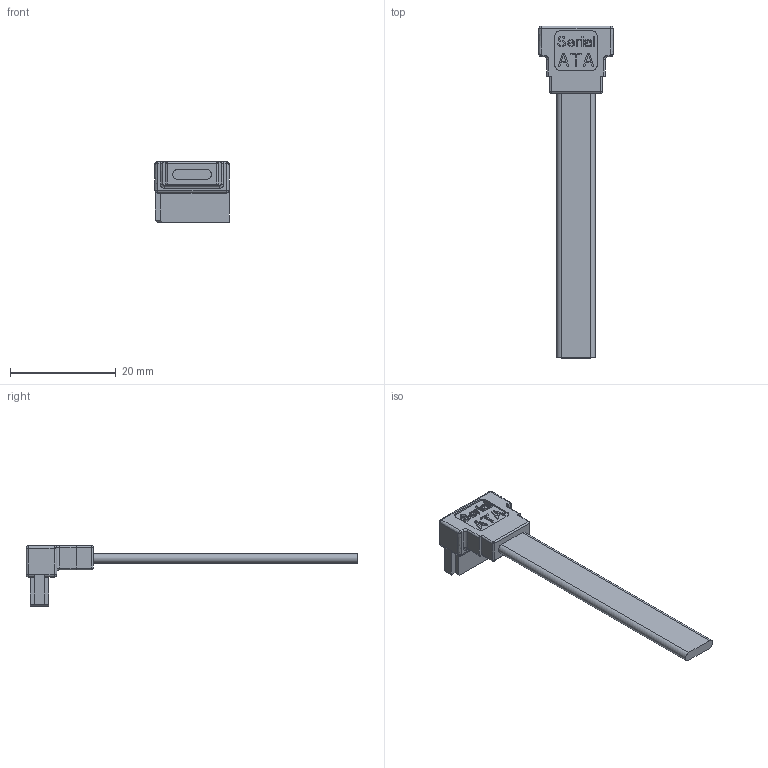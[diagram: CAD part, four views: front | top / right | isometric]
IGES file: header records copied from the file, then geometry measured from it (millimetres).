
Start section:  PTC IGES file: SATA 7P Right Angle reverse.igs
Global section: file name: SATA 7P Right Angle reverse.igs; native system: Creo Parametric by Parametric Technology Corporation; preprocessor: 2012130; author: Linoliu; organization: Unknown; date: 20140707.155153; units: millimetre
Bounding box: 14 x 62.7 x 11.4 mm (x, y, z)
Surface area: 2321.9 mm2 (no closed solid volume)
Topology: 0 solids, 0 shells, 1049 faces, 6460 edges, 6450 vertices
Faces by surface type: bspline 846, revolution 203
